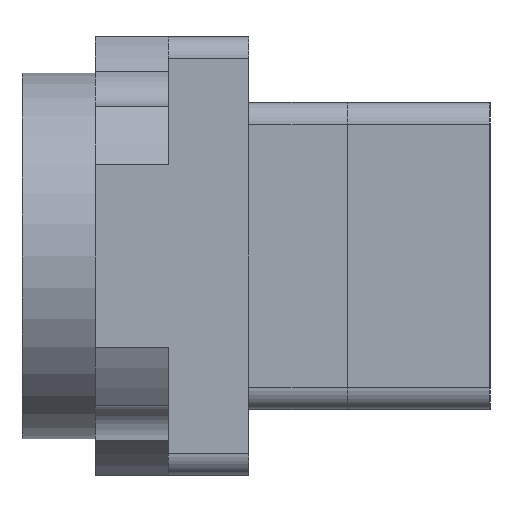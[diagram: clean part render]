
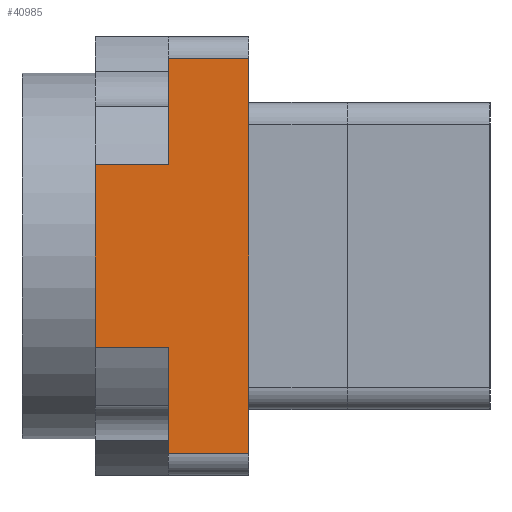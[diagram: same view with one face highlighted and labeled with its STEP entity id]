
A CAD part, left-side view. The second image highlights one B-rep face of the part: STEP entity #40985.
In plain terms, the highlighted planar face has unit normal (-1, 0, 0).
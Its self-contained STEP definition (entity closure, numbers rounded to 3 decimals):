
#33 = PLANE ( 'NONE',  #23976 ) ;
#392 = LINE ( 'NONE', #56602, #51535 ) ;
#2752 = VERTEX_POINT ( 'NONE', #5986 ) ;
#2980 = EDGE_CURVE ( 'NONE', #20939, #58703, #11026, .T. ) ;
#3558 = CARTESIAN_POINT ( 'NONE',  ( -30., 0., 27. ) ) ;
#5677 = ORIENTED_EDGE ( 'NONE', *, *, #2980, .F. ) ;
#5911 = EDGE_CURVE ( 'NONE', #31851, #20939, #37252, .T. ) ;
#5986 = CARTESIAN_POINT ( 'NONE',  ( -30., 11., 27. ) ) ;
#6203 = ORIENTED_EDGE ( 'NONE', *, *, #59463, .F. ) ;
#10340 = CARTESIAN_POINT ( 'NONE',  ( -30., 21., -12.5 ) ) ;
#10599 = DIRECTION ( 'NONE',  ( 1., 0., 0. ) ) ;
#10833 = ORIENTED_EDGE ( 'NONE', *, *, #45941, .F. ) ;
#11026 = LINE ( 'NONE', #40927, #37435 ) ;
#11453 = EDGE_CURVE ( 'NONE', #19956, #31851, #392, .T. ) ;
#12356 = EDGE_CURVE ( 'NONE', #58703, #51587, #52276, .T. ) ;
#13346 = CARTESIAN_POINT ( 'NONE',  ( -30., 11., -12.5 ) ) ;
#13718 = DIRECTION ( 'NONE',  ( 0., -1., 0. ) ) ;
#13800 = LINE ( 'NONE', #63546, #68362 ) ;
#14452 = FACE_OUTER_BOUND ( 'NONE', #21942, .T. ) ;
#15416 = VERTEX_POINT ( 'NONE', #62758 ) ;
#18939 = VECTOR ( 'NONE', #13718, 1000. ) ;
#19956 = VERTEX_POINT ( 'NONE', #67502 ) ;
#19966 = DIRECTION ( 'NONE',  ( 0., -1., 0. ) ) ;
#20530 = CARTESIAN_POINT ( 'NONE',  ( -30., 11., -27. ) ) ;
#20881 = ORIENTED_EDGE ( 'NONE', *, *, #11453, .F. ) ;
#20939 = VERTEX_POINT ( 'NONE', #10340 ) ;
#21942 = EDGE_LOOP ( 'NONE', ( #40045, #27735, #30313, #5677, #45413, #20881, #6203, #10833 ) ) ;
#22194 = DIRECTION ( 'NONE',  ( 0., 1., 0. ) ) ;
#22331 = EDGE_CURVE ( 'NONE', #51587, #2752, #33473, .T. ) ;
#23976 = AXIS2_PLACEMENT_3D ( 'NONE', #68359, #10599, #47512 ) ;
#24110 = CARTESIAN_POINT ( 'NONE',  ( -30., 11., 27. ) ) ;
#25295 = DIRECTION ( 'NONE',  ( 0., 0., 1. ) ) ;
#25850 = DIRECTION ( 'NONE',  ( 0., 0., 1. ) ) ;
#27735 = ORIENTED_EDGE ( 'NONE', *, *, #22331, .F. ) ;
#29472 = CARTESIAN_POINT ( 'NONE',  ( -30., 0., -18. ) ) ;
#30313 = ORIENTED_EDGE ( 'NONE', *, *, #12356, .F. ) ;
#31851 = VERTEX_POINT ( 'NONE', #13346 ) ;
#32973 = LINE ( 'NONE', #24110, #18939 ) ;
#33473 = LINE ( 'NONE', #20530, #47504 ) ;
#37252 = LINE ( 'NONE', #48493, #51299 ) ;
#37435 = VECTOR ( 'NONE', #25295, 1000. ) ;
#38721 = VECTOR ( 'NONE', #45370, 1000. ) ;
#40045 = ORIENTED_EDGE ( 'NONE', *, *, #50767, .F. ) ;
#40927 = CARTESIAN_POINT ( 'NONE',  ( -30., 21., -27. ) ) ;
#40985 = ADVANCED_FACE ( 'NONE', ( #14452 ), #33, .F. ) ;
#45370 = DIRECTION ( 'NONE',  ( 0., 0., -1. ) ) ;
#45413 = ORIENTED_EDGE ( 'NONE', *, *, #5911, .F. ) ;
#45941 = EDGE_CURVE ( 'NONE', #52461, #15416, #65195, .T. ) ;
#47504 = VECTOR ( 'NONE', #25850, 1000. ) ;
#47512 = DIRECTION ( 'NONE',  ( 0., 0., -1. ) ) ;
#47818 = DIRECTION ( 'NONE',  ( 0., 1., 0. ) ) ;
#48493 = CARTESIAN_POINT ( 'NONE',  ( -30., 11., -12.5 ) ) ;
#50604 = VECTOR ( 'NONE', #19966, 1000. ) ;
#50767 = EDGE_CURVE ( 'NONE', #2752, #52461, #32973, .T. ) ;
#51299 = VECTOR ( 'NONE', #22194, 1000. ) ;
#51535 = VECTOR ( 'NONE', #67255, 1000. ) ;
#51587 = VERTEX_POINT ( 'NONE', #65562 ) ;
#52276 = LINE ( 'NONE', #61967, #50604 ) ;
#52461 = VERTEX_POINT ( 'NONE', #3558 ) ;
#54179 = CARTESIAN_POINT ( 'NONE',  ( -30., 21., 12.5 ) ) ;
#56602 = CARTESIAN_POINT ( 'NONE',  ( -30., 11., -27. ) ) ;
#58703 = VERTEX_POINT ( 'NONE', #54179 ) ;
#59463 = EDGE_CURVE ( 'NONE', #15416, #19956, #13800, .T. ) ;
#61967 = CARTESIAN_POINT ( 'NONE',  ( -30., 11., 12.5 ) ) ;
#62758 = CARTESIAN_POINT ( 'NONE',  ( -30., 0., -27. ) ) ;
#63546 = CARTESIAN_POINT ( 'NONE',  ( -30., 11., -27. ) ) ;
#65195 = LINE ( 'NONE', #29472, #38721 ) ;
#65562 = CARTESIAN_POINT ( 'NONE',  ( -30., 11., 12.5 ) ) ;
#67255 = DIRECTION ( 'NONE',  ( 0., 0., 1. ) ) ;
#67502 = CARTESIAN_POINT ( 'NONE',  ( -30., 11., -27. ) ) ;
#68359 = CARTESIAN_POINT ( 'NONE',  ( -30., 11., -27. ) ) ;
#68362 = VECTOR ( 'NONE', #47818, 1000. ) ;
